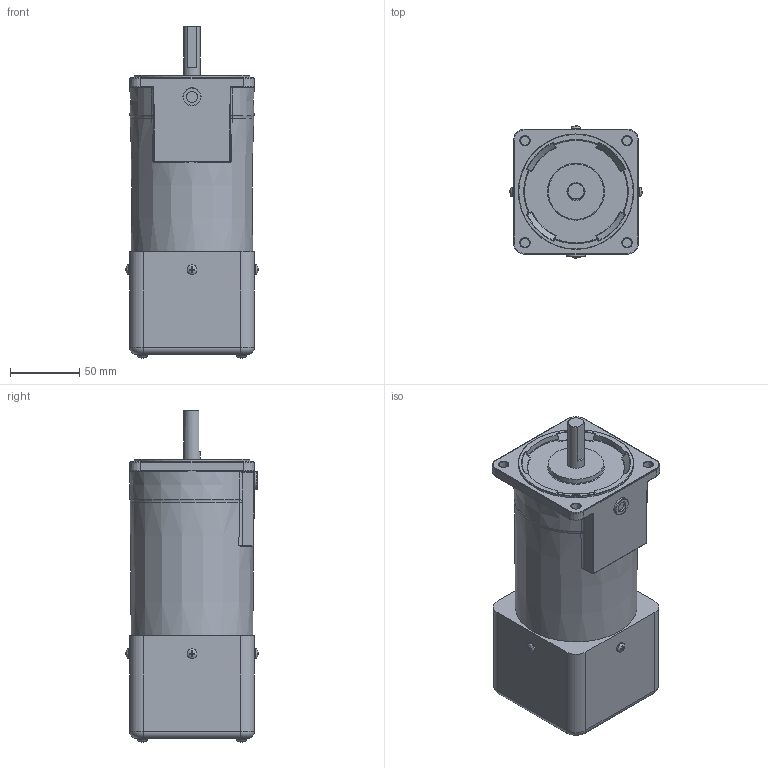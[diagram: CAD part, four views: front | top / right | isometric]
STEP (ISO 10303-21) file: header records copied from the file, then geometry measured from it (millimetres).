
FILE_DESCRIPTION (( 'STEP AP214' ), '1' );
FILE_NAME ('9TDD¤±-60F2.STEP', '2025-01-13T08:13:50', ( '' ), ( '' ), 'SwSTEP 2.0', 'SolidWorks 2024', '' );
FILE_SCHEMA (( 'AUTOMOTIVE_DESIGN' ));
Length unit declared in the file: millimetre
Products named in the file (1): 9TDDㅁ-60F2
Bounding box: 95.13 x 95.13 x 239.07 mm (x, y, z)
Volume: 1381747.1 mm3; surface area: 85251.6 mm2
Topology: 1 solids, 1 shells, 437 faces, 1131 edges, 726 vertices
Faces by surface type: plane 198, cylinder 133, bspline 36, torus 35, cone 33, sphere 2
Full cylindrical faces by diameter (mm): 6.5 x4, 7 x8, 8 x1, 10 x1, 12 x1, 13 x2, 83.1 x1
Entity records: 13976 total; most frequent: CARTESIAN_POINT 3931, ORIENTED_EDGE 2112, DIRECTION 1971, EDGE_CURVE 1056, AXIS2_PLACEMENT_3D 746, VERTEX_POINT 706, EDGE_LOOP 530, LINE 479
